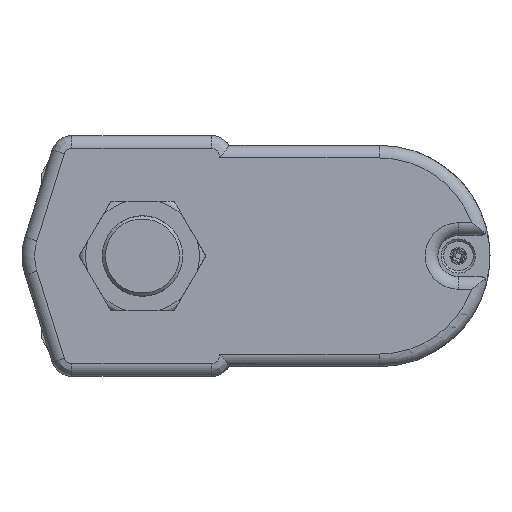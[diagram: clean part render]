
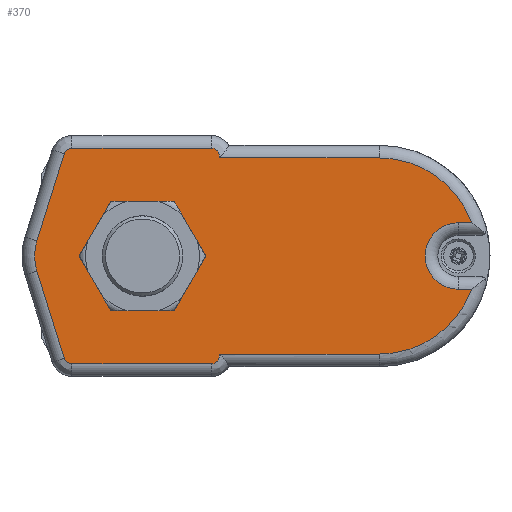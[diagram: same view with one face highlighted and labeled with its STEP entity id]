
A CAD part, left-side view. The second image highlights one B-rep face of the part: STEP entity #370.
In plain terms, the highlighted planar face has unit normal (-1, 0, 0).
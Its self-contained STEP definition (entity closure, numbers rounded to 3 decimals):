
#370 = ADVANCED_FACE( '', ( #765 ), #766, .F. );
#765 = FACE_OUTER_BOUND( '', #1649, .T. );
#766 = PLANE( '', #1650 );
#1649 = EDGE_LOOP( '', ( #2653, #2654, #2655, #2656, #2657, #2658, #2659, #2660, #2661, #2662, #2663, #2664, #2665, #2666, #2667, #2668, #2669, #2670 ) );
#1650 = AXIS2_PLACEMENT_3D( '', #2671, #2672, #2673 );
#2653 = ORIENTED_EDGE( '', *, *, #5465, .T. );
#2654 = ORIENTED_EDGE( '', *, *, #5429, .F. );
#2655 = ORIENTED_EDGE( '', *, *, #5466, .F. );
#2656 = ORIENTED_EDGE( '', *, *, #5467, .F. );
#2657 = ORIENTED_EDGE( '', *, *, #5468, .F. );
#2658 = ORIENTED_EDGE( '', *, *, #5452, .F. );
#2659 = ORIENTED_EDGE( '', *, *, #5457, .T. );
#2660 = ORIENTED_EDGE( '', *, *, #5469, .T. );
#2661 = ORIENTED_EDGE( '', *, *, #5470, .F. );
#2662 = ORIENTED_EDGE( '', *, *, #5471, .T. );
#2663 = ORIENTED_EDGE( '', *, *, #5472, .T. );
#2664 = ORIENTED_EDGE( '', *, *, #5473, .F. );
#2665 = ORIENTED_EDGE( '', *, *, #5462, .F. );
#2666 = ORIENTED_EDGE( '', *, *, #5474, .T. );
#2667 = ORIENTED_EDGE( '', *, *, #5447, .F. );
#2668 = ORIENTED_EDGE( '', *, *, #5455, .T. );
#2669 = ORIENTED_EDGE( '', *, *, #5438, .F. );
#2670 = ORIENTED_EDGE( '', *, *, #5437, .T. );
#2671 = CARTESIAN_POINT( '', ( 0., 74.9, 0. ) );
#2672 = DIRECTION( '', ( 1., 0., 0. ) );
#2673 = DIRECTION( '', ( 0., 0., -1. ) );
#5429 = EDGE_CURVE( '', #6323, #6325, #6326, .T. );
#5437 = EDGE_CURVE( '', #6332, #6339, #6341, .T. );
#5438 = EDGE_CURVE( '', #6332, #6342, #6343, .T. );
#5447 = EDGE_CURVE( '', #6357, #6354, #6359, .T. );
#5452 = EDGE_CURVE( '', #6367, #6361, #6369, .T. );
#5455 = EDGE_CURVE( '', #6357, #6342, #6373, .T. );
#5457 = EDGE_CURVE( '', #6367, #6375, #6377, .T. );
#5462 = EDGE_CURVE( '', #6384, #6379, #6386, .T. );
#5465 = EDGE_CURVE( '', #6339, #6325, #6391, .T. );
#5466 = EDGE_CURVE( '', #6392, #6323, #6393, .T. );
#5467 = EDGE_CURVE( '', #6394, #6392, #6395, .T. );
#5468 = EDGE_CURVE( '', #6361, #6394, #6396, .T. );
#5469 = EDGE_CURVE( '', #6375, #6397, #6398, .T. );
#5470 = EDGE_CURVE( '', #6399, #6397, #6400, .T. );
#5471 = EDGE_CURVE( '', #6399, #6401, #6402, .T. );
#5472 = EDGE_CURVE( '', #6401, #6403, #6404, .T. );
#5473 = EDGE_CURVE( '', #6379, #6403, #6405, .T. );
#5474 = EDGE_CURVE( '', #6384, #6354, #6406, .T. );
#6323 = VERTEX_POINT( '', #7823 );
#6325 = VERTEX_POINT( '', #7836 );
#6326 = LINE( '', #7837, #7838 );
#6332 = VERTEX_POINT( '', #7852 );
#6339 = VERTEX_POINT( '', #7884 );
#6341 = LINE( '', #7886, #7887 );
#6342 = VERTEX_POINT( '', #7888 );
#6343 = CIRCLE( '', #7889, 31. );
#6354 = VERTEX_POINT( '', #7915 );
#6357 = VERTEX_POINT( '', #7923 );
#6359 = LINE( '', #7925, #7926 );
#6361 = VERTEX_POINT( '', #7928 );
#6367 = VERTEX_POINT( '', #7952 );
#6369 = CIRCLE( '', #7954, 2.5 );
#6373 = LINE( '', #7976, #7977 );
#6375 = VERTEX_POINT( '', #7979 );
#6377 = LINE( '', #7981, #7982 );
#6379 = VERTEX_POINT( '', #7985 );
#6384 = VERTEX_POINT( '', #7991 );
#6386 = LINE( '', #7993, #7994 );
#6391 = CIRCLE( '', #7999, 10.5 );
#6392 = VERTEX_POINT( '', #8000 );
#6393 = CIRCLE( '', #8001, 31. );
#6394 = VERTEX_POINT( '', #8002 );
#6395 = LINE( '', #8003, #8004 );
#6396 = LINE( '', #8005, #8006 );
#6397 = VERTEX_POINT( '', #8007 );
#6398 = CIRCLE( '', #8008, 2.5 );
#6399 = VERTEX_POINT( '', #8009 );
#6400 = LINE( '', #8010, #8011 );
#6401 = VERTEX_POINT( '', #8012 );
#6402 = CIRCLE( '', #8013, 16. );
#6403 = VERTEX_POINT( '', #8014 );
#6404 = LINE( '', #8015, #8016 );
#6405 = CIRCLE( '', #8017, 2.5 );
#6406 = CIRCLE( '', #8018, 2.5 );
#7823 = CARTESIAN_POINT( '', ( 0., 104.068, -10.5 ) );
#7836 = CARTESIAN_POINT( '', ( 0., 99.9, -10.5 ) );
#7837 = CARTESIAN_POINT( '', ( 0., 125.3, -10.5 ) );
#7838 = VECTOR( '', #10529, 1000. );
#7852 = CARTESIAN_POINT( '', ( 0., 104.068, 10.5 ) );
#7884 = CARTESIAN_POINT( '', ( 0., 99.9, 10.5 ) );
#7886 = CARTESIAN_POINT( '', ( 0., 125.3, 10.5 ) );
#7887 = VECTOR( '', #10538, 1000. );
#7888 = CARTESIAN_POINT( '', ( 0., 74.9, 31. ) );
#7889 = AXIS2_PLACEMENT_3D( '', #10539, #10540, #10541 );
#7915 = CARTESIAN_POINT( '', ( 0., 24.31, 31.6 ) );
#7923 = CARTESIAN_POINT( '', ( 0., 24.31, 31. ) );
#7925 = CARTESIAN_POINT( '', ( 0., 24.31, -31.6 ) );
#7926 = VECTOR( '', #10556, 1000. );
#7928 = CARTESIAN_POINT( '', ( 0., 24.31, -31.6 ) );
#7952 = CARTESIAN_POINT( '', ( 0., 21.81, -34.1 ) );
#7954 = AXIS2_PLACEMENT_3D( '', #10563, #10564, #10565 );
#7976 = CARTESIAN_POINT( '', ( 0., 16.48, 31. ) );
#7977 = VECTOR( '', #10567, 1000. );
#7979 = CARTESIAN_POINT( '', ( 0., -22.328, -34.1 ) );
#7981 = CARTESIAN_POINT( '', ( 0., 21.81, -34.1 ) );
#7982 = VECTOR( '', #10571, 1000. );
#7985 = CARTESIAN_POINT( '', ( 0., -22.328, 34.1 ) );
#7991 = CARTESIAN_POINT( '', ( 0., 21.81, 34.1 ) );
#7993 = CARTESIAN_POINT( '', ( 0., 21.81, 34.1 ) );
#7994 = VECTOR( '', #10580, 1000. );
#7999 = AXIS2_PLACEMENT_3D( '', #10587, #10588, #10589 );
#8000 = CARTESIAN_POINT( '', ( 0., 74.9, -31. ) );
#8001 = AXIS2_PLACEMENT_3D( '', #10590, #10591, #10592 );
#8002 = CARTESIAN_POINT( '', ( 0., 24.31, -31. ) );
#8003 = CARTESIAN_POINT( '', ( 0., 16.48, -31. ) );
#8004 = VECTOR( '', #10593, 1000. );
#8005 = CARTESIAN_POINT( '', ( 0., 24.31, -31.6 ) );
#8006 = VECTOR( '', #10594, 1000. );
#8007 = CARTESIAN_POINT( '', ( 0., -24.713, -32.349 ) );
#8008 = AXIS2_PLACEMENT_3D( '', #10595, #10596, #10597 );
#8009 = CARTESIAN_POINT( '', ( 0., -33.365, -4.793 ) );
#8010 = CARTESIAN_POINT( '', ( 0., -33.365, -4.793 ) );
#8011 = VECTOR( '', #10598, 1000. );
#8012 = CARTESIAN_POINT( '', ( 0., -33.365, 4.793 ) );
#8013 = AXIS2_PLACEMENT_3D( '', #10599, #10600, #10601 );
#8014 = CARTESIAN_POINT( '', ( 0., -24.713, 32.349 ) );
#8015 = CARTESIAN_POINT( '', ( 0., -33.365, 4.793 ) );
#8016 = VECTOR( '', #10602, 1000. );
#8017 = AXIS2_PLACEMENT_3D( '', #10603, #10604, #10605 );
#8018 = AXIS2_PLACEMENT_3D( '', #10606, #10607, #10608 );
#10529 = DIRECTION( '', ( 0., -1., 0. ) );
#10538 = DIRECTION( '', ( 0., -1., 0. ) );
#10539 = CARTESIAN_POINT( '', ( 0., 74.9, 0. ) );
#10540 = DIRECTION( '', ( 1., 0., 0. ) );
#10541 = DIRECTION( '', ( 0., 0., -1. ) );
#10556 = DIRECTION( '', ( 0., 0., 1. ) );
#10563 = CARTESIAN_POINT( '', ( 0., 21.81, -31.6 ) );
#10564 = DIRECTION( '', ( 1., 0., 0. ) );
#10565 = DIRECTION( '', ( 0., 0., -1. ) );
#10567 = DIRECTION( '', ( 0., 1., 0. ) );
#10571 = DIRECTION( '', ( 0., -1., 0. ) );
#10580 = DIRECTION( '', ( 0., -1., 0. ) );
#10587 = CARTESIAN_POINT( '', ( 0., 99.9, 0. ) );
#10588 = DIRECTION( '', ( 1., 0., 0. ) );
#10589 = DIRECTION( '', ( 0., 0., -1. ) );
#10590 = CARTESIAN_POINT( '', ( 0., 74.9, 0. ) );
#10591 = DIRECTION( '', ( 1., 0., 0. ) );
#10592 = DIRECTION( '', ( 0., 0., -1. ) );
#10593 = DIRECTION( '', ( 0., 1., 0. ) );
#10594 = DIRECTION( '', ( 0., 0., 1. ) );
#10595 = CARTESIAN_POINT( '', ( 0., -22.328, -31.6 ) );
#10596 = DIRECTION( '', ( -1., 0., 0. ) );
#10597 = DIRECTION( '', ( 0., 0., 1. ) );
#10598 = DIRECTION( '', ( 0., 0.3, -0.954 ) );
#10599 = CARTESIAN_POINT( '', ( 0., -18.1, 0. ) );
#10600 = DIRECTION( '', ( -1., 0., 0. ) );
#10601 = DIRECTION( '', ( 0., 0., 1. ) );
#10602 = DIRECTION( '', ( 0., 0.3, 0.954 ) );
#10603 = CARTESIAN_POINT( '', ( 0., -22.328, 31.6 ) );
#10604 = DIRECTION( '', ( 1., 0., 0. ) );
#10605 = DIRECTION( '', ( 0., 0., -1. ) );
#10606 = CARTESIAN_POINT( '', ( 0., 21.81, 31.6 ) );
#10607 = DIRECTION( '', ( -1., 0., 0. ) );
#10608 = DIRECTION( '', ( 0., 0., 1. ) );
